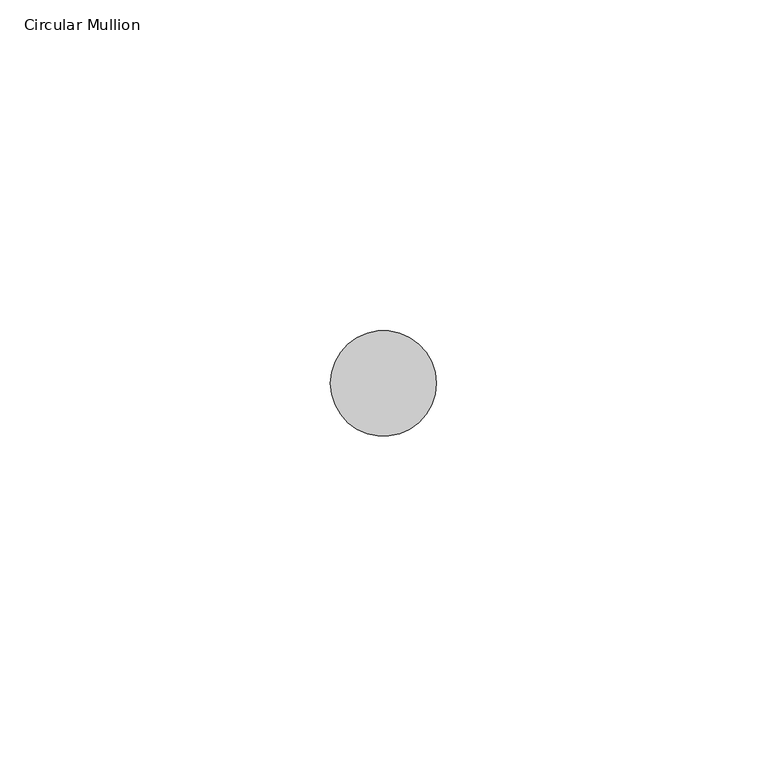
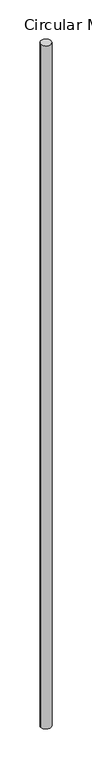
"""IFC4 building model written with IfcOpenShell, lengths in millimetres: member geometry, Circular Mullion : ARQ_HERR_16mm."""

from ifc_helpers import new_model, si_unit, point, frame, origin, origin_2d, place, context, project, spatial, circle_curve, trimmed, segment, composite_curve, outline, extrude, source, transform, mapped, element, save


def circular_mullion_f540d6b4(model_context):
    return source(origin(), model_context, "Body", "SweptSolid", [
        extrude(outline(composite_curve([segment(trimmed(circle_curve(origin_2d(), 8.0), [point((8.0, 0.0))], [point((-8.0, 0.0))], False, "CARTESIAN"), True, "CONTINUOUS"), segment(trimmed(circle_curve(origin_2d(), 8.0), [point((-8.0, 0.0))], [point((8.0, 0.0))], False, "CARTESIAN"), True, "CONTINUOUS")], self_intersect=False)), frame((0.0, 0.0, -1101.3333335), z_axis=(0.0, 0.0, 1.0), x_axis=(1.0, 0.0, 0.0)), (0.0, 0.0, 1.0), 1101.3333335),
    ])


if __name__ == "__main__":
    model = new_model("IFC4")
    model_context = context("Model", 3, world=origin())
    ifc_project = project(units=[si_unit("LENGTHUNIT", "METRE", prefix="MILLI")], contexts=[model_context])
    site = spatial("IfcSite", under=ifc_project)
    building = spatial("IfcBuilding", under=site)
    placement = place(None, origin())
    circular_mullion_shape = circular_mullion_f540d6b4(model_context)
    element("IfcMember", 1, ObjectType="Circular Mullion : ARQ_HERR_16mm", at=placement, inside=building, context=model_context, shape_type="MappedRepresentation", body=[
        mapped(circular_mullion_shape, transform((0.0, 0.0, 0.0), x_axis=(1.0, 0.0, 0.0), y_axis=(0.0, 1.0, 0.0), z_axis=(0.0, 0.0, 1.0))),
    ])
    save(model, "model.ifc")
